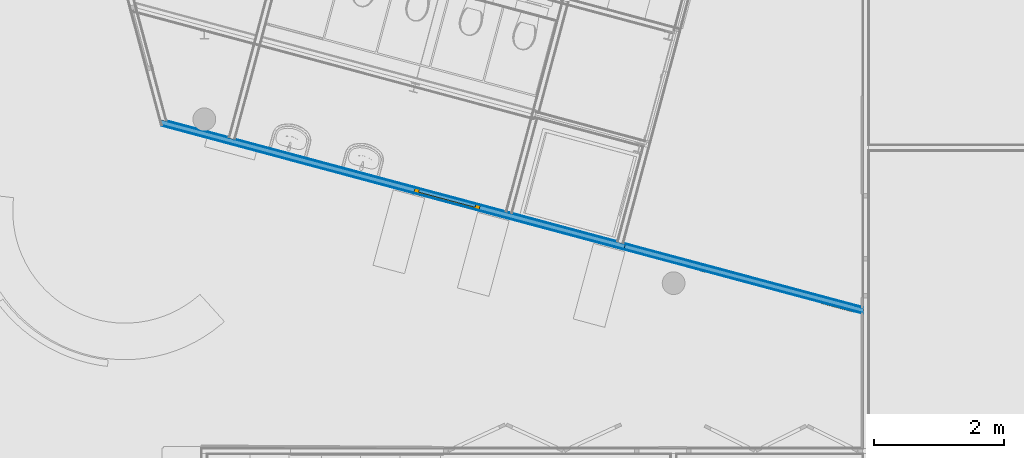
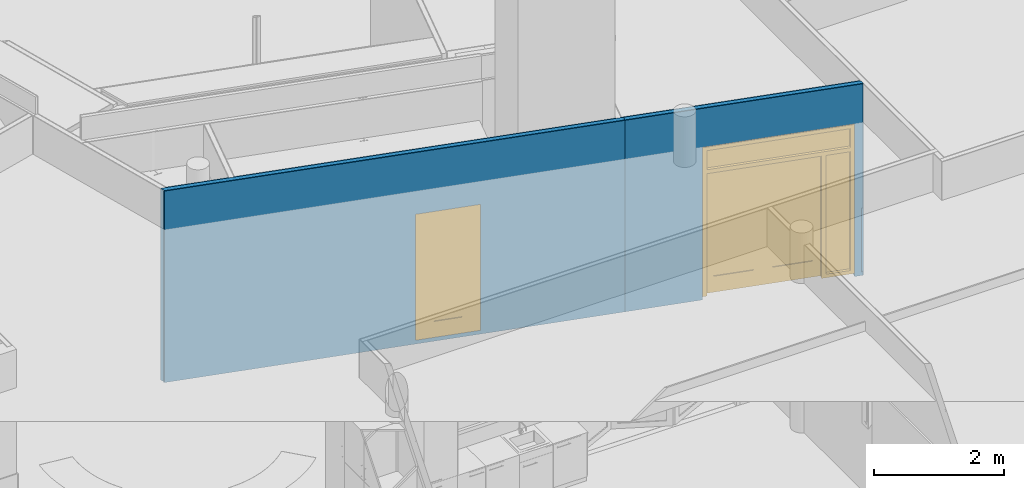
# One storey, part 54 of 167: 6 building element parts, 2 doors, 2 openings, 2 elements without a shape of their own.
"""IFC2X3 building model written with IfcOpenShell, lengths in millimetres."""

from ifc_helpers import new_model, entity, si_unit, converted_unit, derived_unit, money_unit, direction, frame, origin_with_axes, place, context, subcontext, project, spatial, open_shell, faceted_brep, surface_model, material, type_object, element, fill, aggregate, save


model = new_model("IFC2X3")

# Units and contexts
model_context = context("Model", 3, precision=0.01, world=origin_with_axes(), true_north=direction((0.0, 1.0)))
plan_context = context("Plan", 3, precision=0.01, world=origin_with_axes(), true_north=direction((0.0, 1.0)))
body_context = subcontext(model_context, "Body", "Model", "MODEL_VIEW")
ifc_project = project(units=[si_unit("LENGTHUNIT", "METRE", prefix="MILLI"), si_unit("AREAUNIT", "SQUARE_METRE"), si_unit("VOLUMEUNIT", "CUBIC_METRE"), converted_unit("PLANEANGLEUNIT", "DEGREE", entity("IfcPlaneAngleMeasure", 0.0174532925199), si_unit("PLANEANGLEUNIT", "RADIAN"), dimensions=[0, 0, 0, 0, 0, 0, 0]), si_unit("SOLIDANGLEUNIT", "STERADIAN"), money_unit("EUR"), converted_unit("TIMEUNIT", "Year", entity("IfcTimeMeasure", 31556926.0), si_unit("TIMEUNIT", "SECOND"), dimensions=[0, 0, 1, 0, 0, 0, 0]), si_unit("MASSUNIT", "GRAM", prefix="KILO"), si_unit("THERMODYNAMICTEMPERATUREUNIT", "DEGREE_CELSIUS"), si_unit("LUMINOUSINTENSITYUNIT", "LUMEN"), si_unit("ENERGYUNIT", "JOULE", prefix="MEGA"), derived_unit("THERMALCONDUCTANCEUNIT", [(si_unit("POWERUNIT", "WATT"), 1), (si_unit("LENGTHUNIT", "METRE"), -1), (si_unit("THERMODYNAMICTEMPERATUREUNIT", "KELVIN"), -1)]), derived_unit("SPECIFICHEATCAPACITYUNIT", [(si_unit("ENERGYUNIT", "JOULE"), 1), (si_unit("MASSUNIT", "GRAM", prefix="KILO"), -1), (si_unit("THERMODYNAMICTEMPERATUREUNIT", "KELVIN"), -1)]), derived_unit("MASSDENSITYUNIT", [(si_unit("MASSUNIT", "GRAM", prefix="KILO"), 1), (si_unit("VOLUMEUNIT", "CUBIC_METRE"), -1)])], contexts=[model_context, plan_context])

# Site, building, storey
site_placement = place(None, origin_with_axes())
site = spatial("IfcSite", under=ifc_project, at=site_placement, Name="Site", CompositionType="ELEMENT")
building_placement = place(site_placement, origin_with_axes())
building = spatial("IfcBuilding", under=site, at=building_placement, Name="Naam gebouw", CompositionType="ELEMENT")
storey_placement = place(building_placement, origin_with_axes())
storey = spatial("IfcBuildingStorey", under=building, at=storey_placement, Name="Begane grond", CompositionType="ELEMENT", Elevation=0.0)

# Door
door_style_1 = type_object("IfcDoorStyle", Name="D1 24", ConstructionType="NOTDEFINED", OperationType="SINGLE_SWING_RIGHT", ParameterTakesPrecedence=False, Sizeable=False)
wall_1_placement = place(storey_placement, frame((13781.7619756, 13253.6096695, -100.0), z_axis=(0.0, 0.0, 1.0), x_axis=(0.965925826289, -0.258819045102, 0.0)))
opening_1_placement = place(wall_1_placement, frame((4495.07008682, 0.0, 102.0), z_axis=(0.0, 0.0, 1.0), x_axis=(1.0, 0.0, 0.0)))
door_1_placement = place(opening_1_placement, frame((517.0, 0.0, 0.0), z_axis=(0.0, 0.0, 1.0), x_axis=(-1.0, 0.0, 0.0)))
door_1 = element("IfcDoor", 1, at=door_1_placement, inside=storey, type_object=door_style_1, Name="32_Deur_Hi-01as", ObjectType="DOOR", OverallHeight=2367.0, OverallWidth=1034.0, context=body_context, shape_type="SurfaceModel", body=[
    faceted_brep([(67.0, 10.0, 0.0), (67.0, 10.0, 2300.0), (67.0, -64.0, 2300.0), (67.0, -64.0, 0.0), (42.0, 10.0, 2300.0), (42.0, 10.0, 0.0), (42.0, 50.0, 2300.0), (0.0, 50.0, 2300.0), (0.0, -64.0, 2300.0), (0.0, -64.0, 0.0), (0.0, 50.0, 0.0), (42.0, 50.0, 0.0)], [[[0, 1, 2, 3]], [[4, 1, 0, 5]], [[4, 6, 7, 8, 2, 1]], [[3, 2, 8, 9]], [[5, 0, 3, 9, 10, 11]], [[6, 4, 5, 11]], [[6, 11, 10, 7]], [[10, 9, 8, 7]]]),
    faceted_brep([(992.0, 10.0, 2300.0), (967.0, 10.0, 2300.0), (967.0, -64.0, 2300.0), (1034.0, -64.0, 2300.0), (1034.0, 50.0, 2300.0), (992.0, 50.0, 2300.0), (992.0, 10.0, 0.0), (967.0, 10.0, 0.0), (967.0, -64.0, 0.0), (1034.0, -64.0, 0.0), (1034.0, 50.0, 0.0), (992.0, 50.0, 0.0)], [[[0, 1, 2, 3, 4, 5]], [[1, 0, 6, 7]], [[1, 7, 8, 2]], [[3, 2, 8, 9]], [[4, 3, 9, 10]], [[11, 5, 4, 10]], [[0, 5, 11, 6]], [[6, 11, 10, 9, 8, 7]]]),
    faceted_brep([(42.0, 50.0, 2325.0), (42.0, 50.0, 2300.0), (0.0, 50.0, 2300.0), (0.0, 50.0, 2367.0), (1034.0, 50.0, 2367.0), (1034.0, 50.0, 2300.0), (992.0, 50.0, 2300.0), (992.0, 50.0, 2325.0), (42.0, 10.0, 2325.0), (42.0, 10.0, 2300.0), (67.0, 10.0, 2300.0), (67.0, -64.0, 2300.0), (0.0, -64.0, 2300.0), (0.0, -64.0, 2367.0), (1034.0, -64.0, 2367.0), (1034.0, -64.0, 2300.0), (992.0, 10.0, 2300.0), (967.0, -64.0, 2300.0), (967.0, 10.0, 2300.0), (992.0, 10.0, 2325.0)], [[[0, 1, 2, 3, 4, 5, 6, 7]], [[1, 0, 8, 9]], [[9, 10, 11, 12, 2, 1]], [[2, 12, 13, 3]], [[3, 13, 14, 4]], [[4, 14, 15, 5]], [[16, 6, 5, 15, 17, 18]], [[7, 6, 16, 19]], [[0, 7, 19, 8]], [[16, 18, 10, 9, 8, 19]], [[10, 18, 17, 11]], [[17, 15, 14, 13, 12, 11]]]),
    faceted_brep([(992.0, 50.0, 300.0), (992.0, 10.0, 300.0), (742.0, 10.0, 300.0), (742.0, 50.0, 300.0), (992.0, 50.0, 2075.0), (992.0, 10.0, 2075.0), (742.0, 10.0, 2075.0), (742.0, 50.0, 2075.0)], [[[0, 1, 2, 3]], [[4, 5, 1, 0]], [[1, 5, 6, 2]], [[3, 2, 6, 7]], [[0, 3, 7, 4]], [[7, 6, 5, 4]]]),
    faceted_brep([(42.0, 50.0, 300.0), (42.0, 10.0, 300.0), (42.0, 10.0, 2075.0), (42.0, 50.0, 2075.0), (292.0, 50.0, 300.0), (292.0, 10.0, 300.0), (292.0, 10.0, 2075.0), (292.0, 50.0, 2075.0)], [[[0, 1, 2, 3]], [[4, 5, 1, 0]], [[1, 5, 6, 2]], [[3, 2, 6, 7]], [[0, 3, 7, 4]], [[7, 6, 5, 4]]]),
    faceted_brep([(992.0, 50.0, 0.0), (992.0, 10.0, 0.0), (42.0, 10.0, 0.0), (42.0, 50.0, 0.0), (992.0, 50.0, 300.0), (992.0, 10.0, 300.0), (742.0, 10.0, 300.0), (292.0, 10.0, 300.0), (42.0, 10.0, 300.0), (42.0, 50.0, 300.0), (292.0, 50.0, 300.0), (742.0, 50.0, 300.0)], [[[0, 1, 2, 3]], [[4, 5, 1, 0]], [[1, 5, 6, 7, 8, 2]], [[3, 2, 8, 9]], [[0, 3, 9, 10, 11, 4]], [[11, 6, 5, 4]], [[10, 7, 6, 11]], [[9, 8, 7, 10]]]),
    faceted_brep([(992.0, 50.0, 2325.0), (992.0, 10.0, 2325.0), (992.0, 10.0, 2075.0), (992.0, 50.0, 2075.0), (42.0, 50.0, 2325.0), (42.0, 10.0, 2325.0), (42.0, 10.0, 2075.0), (292.0, 10.0, 2075.0), (742.0, 10.0, 2075.0), (742.0, 50.0, 2075.0), (292.0, 50.0, 2075.0), (42.0, 50.0, 2075.0)], [[[0, 1, 2, 3]], [[4, 5, 1, 0]], [[1, 5, 6, 7, 8, 2]], [[3, 2, 8, 9]], [[0, 3, 9, 10, 11, 4]], [[11, 6, 5, 4]], [[10, 7, 6, 11]], [[9, 8, 7, 10]]]),
    surface_model("IfcShellBasedSurfaceModel", [(742.0, 36.0, 300.0), (292.0, 36.0, 300.0), (292.0, 36.0, 2075.0), (742.0, 36.0, 2075.0)], [open_shell([[[0, 1, 2, 3]]])]),
    surface_model("IfcShellBasedSurfaceModel", [(742.0, 24.0, 300.0), (742.0, 24.0, 2075.0), (292.0, 24.0, 2075.0), (292.0, 24.0, 300.0)], [open_shell([[[0, 1, 2, 3]]])]),
])

door_style_2 = type_object("IfcDoorStyle", Name="D2 bl zl1 24", ConstructionType="NOTDEFINED", OperationType="USERDEFINED", ParameterTakesPrecedence=False, Sizeable=False)
wall_2_placement = place(storey_placement, frame((20849.2505835, 11359.8818045, -100.0), z_axis=(0.0, 0.0, 1.0), x_axis=(0.965925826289, -0.258819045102, 0.0)))
opening_2_placement = place(wall_2_placement, frame((2444.79876736, 0.0, 100.0), z_axis=(0.0, 0.0, 1.0), x_axis=(1.0, 0.0, 0.0)))
door_2_placement = place(opening_2_placement, frame((-1212.13574196, 0.0, 0.0), z_axis=(0.0, 0.0, 1.0), x_axis=(1.0, 0.0, 0.0)))
door_2 = element("IfcDoor", 2, at=door_2_placement, inside=storey, type_object=door_style_2, Name="32_Deur_Hi-18", ObjectType="DOOR", OverallHeight=2800.0, OverallWidth=2424.27, context=body_context, shape_type="SurfaceModel", body=[
    faceted_brep([(2424.27148392, 50.0, 0.0), (2424.27148392, -64.0, 0.0), (2357.27148392, -64.0, 0.0), (2357.27148392, 50.0, 0.0), (2424.27148392, 50.0, 2733.0), (2424.27148392, -64.0, 2733.0), (2357.27148392, -64.0, 2733.0), (2357.27148392, -64.0, 2375.0), (2357.27148392, -64.0, 2300.0), (2357.27148392, -64.0, 67.0), (2357.27148392, 50.0, 67.0), (2357.27148392, 50.0, 2300.0), (2357.27148392, 50.0, 2375.0), (2357.27148392, 50.0, 2733.0)], [[[0, 1, 2, 3]], [[4, 5, 1, 0]], [[1, 5, 6, 7, 8, 9, 2]], [[3, 2, 9, 10]], [[0, 3, 10, 11, 12, 13, 4]], [[13, 6, 5, 4]], [[12, 7, 6, 13]], [[11, 8, 7, 12]], [[10, 9, 8, 11]]]),
    faceted_brep([(1898.0, 10.0, 0.0), (1898.0, -64.0, 0.0), (1898.0, -64.0, 2300.0), (1898.0, 10.0, 2300.0), (1923.0, 10.0, 0.0), (1923.0, 50.0, 0.0), (1965.0, 50.0, 0.0), (1965.0, -64.0, 0.0), (1965.0, -64.0, 67.0), (1965.0, -64.0, 2300.0), (1923.0, 10.0, 2300.0), (1965.0, 50.0, 2300.0), (1923.0, 50.0, 2300.0), (1965.0, 50.0, 67.0)], [[[0, 1, 2, 3]], [[4, 5, 6, 7, 1, 0]], [[7, 8, 9, 2, 1]], [[10, 3, 2, 9, 11, 12]], [[10, 4, 0, 3]], [[12, 5, 4, 10]], [[12, 11, 13, 6, 5]], [[6, 13, 8, 7]], [[13, 11, 9, 8]]]),
    faceted_brep([(2357.27148392, 50.0, 67.0), (2357.27148392, -64.0, 67.0), (2357.27148392, -64.0, 0.0), (2357.27148392, 50.0, 0.0), (1965.0, 50.0, 67.0), (1965.0, -64.0, 67.0), (1965.0, -64.0, 0.0), (1965.0, 50.0, 0.0)], [[[0, 1, 2, 3]], [[4, 5, 1, 0]], [[1, 5, 6, 2]], [[3, 2, 6, 7]], [[0, 3, 7, 4]], [[7, 6, 5, 4]]]),
    faceted_brep([(42.0, 50.0, 2325.0), (42.0, 50.0, 0.0), (0.0, 50.0, 0.0), (0.0, 50.0, 2733.0), (67.0, 50.0, 2733.0), (67.0, 50.0, 2375.0), (67.0, 50.0, 2325.0), (42.0, 10.0, 2325.0), (42.0, 10.0, 0.0), (67.0, 10.0, 0.0), (67.0, -64.0, 0.0), (0.0, -64.0, 0.0), (0.0, -64.0, 2733.0), (67.0, -64.0, 2733.0), (67.0, -64.0, 2375.0), (67.0, 10.0, 2325.0), (67.0, -64.0, 2300.0)], [[[0, 1, 2, 3, 4, 5, 6]], [[0, 7, 8, 1]], [[8, 9, 10, 11, 2, 1]], [[3, 2, 11, 12]], [[4, 3, 12, 13]], [[5, 4, 13, 14]], [[15, 6, 5, 14, 16, 10, 9]], [[6, 15, 7, 0]], [[8, 7, 15, 9]], [[14, 13, 12, 11, 10, 16]]]),
    faceted_brep([(2424.27148392, 50.0, 2800.0), (2424.27148392, -64.0, 2800.0), (2424.27148392, -64.0, 2733.0), (2424.27148392, 50.0, 2733.0), (0.0, 50.0, 2800.0), (0.0, -64.0, 2800.0), (0.0, -64.0, 2733.0), (67.0, -64.0, 2733.0), (2357.27148392, -64.0, 2733.0), (2357.27148392, 50.0, 2733.0), (67.0, 50.0, 2733.0), (0.0, 50.0, 2733.0)], [[[0, 1, 2, 3]], [[4, 5, 1, 0]], [[1, 5, 6, 7, 8, 2]], [[3, 2, 8, 9]], [[0, 3, 9, 10, 11, 4]], [[11, 6, 5, 4]], [[10, 7, 6, 11]], [[9, 8, 7, 10]]]),
    faceted_brep([(67.0, 10.0, 2325.0), (67.0, 10.0, 2300.0), (67.0, -64.0, 2300.0), (67.0, -64.0, 2375.0), (67.0, 50.0, 2375.0), (67.0, 50.0, 2325.0), (1923.0, 10.0, 2325.0), (1923.0, 10.0, 2300.0), (1898.0, 10.0, 2300.0), (1898.0, -64.0, 2300.0), (1965.0, -64.0, 2300.0), (2357.27148392, -64.0, 2300.0), (2357.27148392, -64.0, 2375.0), (2357.27148392, 50.0, 2375.0), (1923.0, 50.0, 2325.0), (2357.27148392, 50.0, 2300.0), (1965.0, 50.0, 2300.0), (1923.0, 50.0, 2300.0)], [[[0, 1, 2, 3, 4, 5]], [[0, 6, 7, 8, 1]], [[8, 9, 2, 1]], [[9, 10, 11, 12, 3, 2]], [[13, 4, 3, 12]], [[14, 5, 4, 13, 15, 16, 17]], [[5, 14, 6, 0]], [[17, 7, 6, 14]], [[7, 17, 16, 10, 9, 8]], [[16, 15, 11, 10]], [[15, 13, 12, 11]]]),
    faceted_brep([(42.0, 50.0, 300.0), (192.0, 50.0, 300.0), (192.0, 10.0, 300.0), (42.0, 10.0, 300.0), (42.0, 50.0, 2175.0), (192.0, 50.0, 2175.0), (192.0, 10.0, 2175.0), (42.0, 10.0, 2175.0)], [[[0, 1, 2, 3]], [[0, 4, 5, 1]], [[1, 5, 6, 2]], [[3, 2, 6, 7]], [[4, 0, 3, 7]], [[5, 4, 7, 6]]]),
    faceted_brep([(982.5, 50.0, 300.0), (982.5, 50.0, 2175.0), (982.5, 10.0, 2175.0), (982.5, 10.0, 300.0), (832.5, 50.0, 300.0), (832.5, 50.0, 2175.0), (832.5, 10.0, 2175.0), (832.5, 10.0, 300.0)], [[[0, 1, 2, 3]], [[0, 4, 5, 1]], [[1, 5, 6, 2]], [[3, 2, 6, 7]], [[4, 0, 3, 7]], [[5, 4, 7, 6]]]),
    faceted_brep([(42.0, 50.0, 0.0), (982.5, 50.0, 0.0), (982.5, 10.0, 0.0), (42.0, 10.0, 0.0), (42.0, 50.0, 300.0), (192.0, 50.0, 300.0), (832.5, 50.0, 300.0), (982.5, 50.0, 300.0), (982.5, 10.0, 300.0), (832.5, 10.0, 300.0), (192.0, 10.0, 300.0), (42.0, 10.0, 300.0)], [[[0, 1, 2, 3]], [[0, 4, 5, 6, 7, 1]], [[1, 7, 8, 2]], [[3, 2, 8, 9, 10, 11]], [[4, 0, 3, 11]], [[5, 4, 11, 10]], [[6, 5, 10, 9]], [[7, 6, 9, 8]]]),
    faceted_brep([(42.0, 50.0, 2325.0), (42.0, 50.0, 2175.0), (42.0, 10.0, 2175.0), (42.0, 10.0, 2325.0), (982.5, 50.0, 2325.0), (982.5, 50.0, 2175.0), (832.5, 50.0, 2175.0), (192.0, 50.0, 2175.0), (192.0, 10.0, 2175.0), (832.5, 10.0, 2175.0), (982.5, 10.0, 2175.0), (982.5, 10.0, 2325.0)], [[[0, 1, 2, 3]], [[0, 4, 5, 6, 7, 1]], [[1, 7, 8, 2]], [[3, 2, 8, 9, 10, 11]], [[4, 0, 3, 11]], [[5, 4, 11, 10]], [[6, 5, 10, 9]], [[7, 6, 9, 8]]]),
    surface_model("IfcShellBasedSurfaceModel", [(192.0, 36.0, 300.0), (192.0, 36.0, 2175.0), (832.5, 36.0, 2175.0), (832.5, 36.0, 300.0)], [open_shell([[[0, 1, 2, 3]]])]),
    surface_model("IfcShellBasedSurfaceModel", [(192.0, 24.0, 300.0), (832.5, 24.0, 300.0), (832.5, 24.0, 2175.0), (192.0, 24.0, 2175.0)], [open_shell([[[0, 1, 2, 3]]])]),
    faceted_brep([(1923.0, 50.0, 300.0), (1923.0, 10.0, 300.0), (1773.0, 10.0, 300.0), (1773.0, 50.0, 300.0), (1923.0, 50.0, 2175.0), (1923.0, 10.0, 2175.0), (1773.0, 10.0, 2175.0), (1773.0, 50.0, 2175.0)], [[[0, 1, 2, 3]], [[4, 5, 1, 0]], [[1, 5, 6, 2]], [[3, 2, 6, 7]], [[0, 3, 7, 4]], [[7, 6, 5, 4]]]),
    faceted_brep([(982.5, 50.0, 300.0), (982.5, 10.0, 300.0), (982.5, 10.0, 2175.0), (982.5, 50.0, 2175.0), (1132.5, 50.0, 300.0), (1132.5, 10.0, 300.0), (1132.5, 10.0, 2175.0), (1132.5, 50.0, 2175.0)], [[[0, 1, 2, 3]], [[4, 5, 1, 0]], [[1, 5, 6, 2]], [[3, 2, 6, 7]], [[0, 3, 7, 4]], [[7, 6, 5, 4]]]),
    faceted_brep([(1923.0, 50.0, 0.0), (1923.0, 10.0, 0.0), (982.5, 10.0, 0.0), (982.5, 50.0, 0.0), (1923.0, 50.0, 300.0), (1923.0, 10.0, 300.0), (1773.0, 10.0, 300.0), (1132.5, 10.0, 300.0), (982.5, 10.0, 300.0), (982.5, 50.0, 300.0), (1132.5, 50.0, 300.0), (1773.0, 50.0, 300.0)], [[[0, 1, 2, 3]], [[4, 5, 1, 0]], [[1, 5, 6, 7, 8, 2]], [[3, 2, 8, 9]], [[0, 3, 9, 10, 11, 4]], [[11, 6, 5, 4]], [[10, 7, 6, 11]], [[9, 8, 7, 10]]]),
    faceted_brep([(1923.0, 50.0, 2325.0), (1923.0, 10.0, 2325.0), (1923.0, 10.0, 2175.0), (1923.0, 50.0, 2175.0), (982.5, 50.0, 2325.0), (982.5, 10.0, 2325.0), (982.5, 10.0, 2175.0), (1132.5, 10.0, 2175.0), (1773.0, 10.0, 2175.0), (1773.0, 50.0, 2175.0), (1132.5, 50.0, 2175.0), (982.5, 50.0, 2175.0)], [[[0, 1, 2, 3]], [[4, 5, 1, 0]], [[1, 5, 6, 7, 8, 2]], [[3, 2, 8, 9]], [[0, 3, 9, 10, 11, 4]], [[11, 6, 5, 4]], [[10, 7, 6, 11]], [[9, 8, 7, 10]]]),
    surface_model("IfcShellBasedSurfaceModel", [(1773.0, 36.0, 300.0), (1132.5, 36.0, 300.0), (1132.5, 36.0, 2175.0), (1773.0, 36.0, 2175.0)], [open_shell([[[0, 1, 2, 3]]])]),
    surface_model("IfcShellBasedSurfaceModel", [(1773.0, 24.0, 300.0), (1773.0, 24.0, 2175.0), (1132.5, 24.0, 2175.0), (1132.5, 24.0, 300.0)], [open_shell([[[0, 1, 2, 3]]])]),
    surface_model("IfcShellBasedSurfaceModel", [(2357.27148392, -4.0, 2375.0), (67.0, -4.0, 2375.0), (67.0, -4.0, 2733.0), (2357.27148392, -4.0, 2733.0)], [open_shell([[[0, 1, 2, 3]]])]),
    surface_model("IfcShellBasedSurfaceModel", [(2357.27148392, -16.0, 2375.0), (2357.27148392, -16.0, 2733.0), (67.0, -16.0, 2733.0), (67.0, -16.0, 2375.0)], [open_shell([[[0, 1, 2, 3]]])]),
    surface_model("IfcShellBasedSurfaceModel", [(2357.27148392, -4.0, 67.0), (1965.0, -4.0, 67.0), (1965.0, -4.0, 2300.0), (2357.27148392, -4.0, 2300.0)], [open_shell([[[0, 1, 2, 3]]])]),
    surface_model("IfcShellBasedSurfaceModel", [(2357.27148392, -16.0, 67.0), (2357.27148392, -16.0, 2300.0), (1965.0, -16.0, 2300.0), (1965.0, -16.0, 67.0)], [open_shell([[[0, 1, 2, 3]]])]),
])

# Wall, opening
wall_type = type_object("IfcWallType", Name="_TenW_22_Metalstud 100 enkel gipsvezelplaat 100", PredefinedType="NOTDEFINED")
wall_1 = element("IfcWall", 3, at=wall_1_placement, inside=storey, type_object=wall_type, Name="22_Wand_Wand-x")
opening_1 = element("IfcOpeningElement", 4, at=opening_1_placement, cuts=wall_1, Name="32_Deur_Hi-01as", context=body_context, shape_type="Brep", body=[
    faceted_brep([(-517.0, 100.0, 2367.0), (-517.0, 100.0, 0.0), (-517.0, -200.0, 0.0), (-517.0, -200.0, 2367.0), (517.0, 100.0, 2367.0), (517.0, 100.0, 0.0), (517.0, -200.0, 0.0), (517.0, -200.0, 2367.0)], [[[0, 1, 2, 3]], [[0, 4, 5, 1]], [[1, 5, 6, 2]], [[3, 2, 6, 7]], [[4, 0, 3, 7]], [[5, 4, 7, 6]]]),
])

fill(opening_1, door_1)

# Building element part
ifc_material_1 = material(Name="Gipsplaat watervast")
building_element_part_1_placement = place(wall_1_placement, origin_with_axes())
building_element_part_1 = element("IfcBuildingElementPart", 5, at=building_element_part_1_placement, material=ifc_material_1, Name="Gipsplaat watervast", context=body_context, shape_type="Brep", body=[
    faceted_brep([(14.4337567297, 50.0, 3630.0), (1029.30261107, 50.0, 3630.0), (1029.30261107, 50.0, 30.0), (14.4337567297, 50.0, 30.0), (1029.30261107, 37.5, 3630.0), (21.6506350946, 37.5, 3630.0), (1029.30261107, 37.5, 30.0), (21.6506350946, 37.5, 30.0)], [[[0, 1, 2, 3]], [[4, 1, 0, 5]], [[1, 4, 6, 2]], [[3, 2, 6, 7]], [[5, 0, 3, 7]], [[4, 5, 7, 6]]]),
    faceted_brep([(7273.62068274, 50.0, 3630.0), (7316.80261107, 50.0, 3630.0), (7316.80261107, 50.0, 30.0), (7273.62068274, 50.0, 30.0), (7316.80261107, 37.5, 3630.0), (7273.62068274, 37.5, 3630.0), (7316.80261107, 37.5, 30.0), (7273.62068274, 37.5, 30.0)], [[[0, 1, 2, 3]], [[4, 1, 0, 5]], [[1, 4, 6, 2]], [[3, 2, 6, 7]], [[5, 0, 3, 7]], [[4, 5, 7, 6]]]),
    faceted_brep([(5504.30261107, 37.5, 2590.0), (5504.30261107, 37.5, 30.0), (7198.62068274, 37.5, 30.0), (7198.62068274, 37.5, 3630.0), (1104.30261107, 37.5, 3630.0), (1104.30261107, 37.5, 30.0), (5429.30261107, 37.5, 30.0), (5429.30261107, 37.5, 2590.0), (3978.07008682, 37.5, 102.0), (3978.07008682, 37.5, 2469.0), (5012.07008682, 37.5, 2469.0), (5012.07008682, 37.5, 102.0), (5504.30261107, 50.0, 2590.0), (5504.30261107, 50.0, 30.0), (7198.62068274, 50.0, 30.0), (7198.62068274, 50.0, 3630.0), (1104.30261107, 50.0, 3630.0), (1104.30261107, 50.0, 30.0), (5429.30261107, 50.0, 30.0), (5429.30261107, 50.0, 2590.0), (3978.07008682, 50.0, 102.0), (3978.07008682, 50.0, 2469.0), (5012.07008682, 50.0, 2469.0), (5012.07008682, 50.0, 102.0)], [[[0, 1, 2, 3, 4, 5, 6, 7], [8, 9, 10, 11]], [[1, 0, 12, 13]], [[14, 2, 1, 13]], [[3, 2, 14, 15]], [[15, 16, 4, 3]], [[16, 17, 5, 4]], [[18, 6, 5, 17]], [[18, 19, 7, 6]], [[19, 12, 0, 7]], [[20, 21, 9, 8]], [[21, 22, 10, 9]], [[22, 23, 11, 10]], [[23, 20, 8, 11]], [[19, 18, 17, 16, 15, 14, 13, 12], [20, 23, 22, 21]]]),
])

ifc_material_2 = material(Name="Isolatie - Steenwol zacht")
building_element_part_2_placement = place(wall_1_placement, origin_with_axes())
building_element_part_2 = element("IfcBuildingElementPart", 6, at=building_element_part_2_placement, material=ifc_material_2, Name="Isolatie - Steenwol zacht", context=body_context, shape_type="Brep", body=[
    faceted_brep([(-21.6506350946, -37.5, 30.0), (0.0, -37.5, 30.0), (7316.80261107, -37.5, 30.0), (7316.80261107, -37.5, 3630.0), (0.0, -37.5, 3630.0), (-21.6506350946, -37.5, 3630.0), (3978.07008682, -37.5, 102.0), (3978.07008682, -37.5, 2469.0), (5012.07008682, -37.5, 2469.0), (5012.07008682, -37.5, 102.0), (-64.9519052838, 37.5, 30.0), (0.0, 37.5, 30.0), (7316.80261107, 37.5, 30.0), (7316.80261107, 37.5, 3630.0), (-64.9519052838, 37.5, 3630.0), (0.0, 37.5, 3630.0), (3978.07008682, 37.5, 102.0), (3978.07008682, 37.5, 2469.0), (5012.07008682, 37.5, 2469.0), (5012.07008682, 37.5, 102.0)], [[[0, 1, 2, 3, 4, 5], [6, 7, 8, 9]], [[1, 0, 10, 11]], [[12, 2, 1, 11]], [[3, 2, 12, 13]], [[14, 5, 4, 3, 13, 15]], [[0, 5, 14, 10]], [[16, 17, 7, 6]], [[17, 18, 8, 7]], [[18, 19, 9, 8]], [[19, 16, 6, 9]], [[11, 10, 14, 15, 13, 12], [16, 19, 18, 17]]]),
])

building_element_part_3_placement = place(wall_1_placement, origin_with_axes())
building_element_part_3 = element("IfcBuildingElementPart", 7, at=building_element_part_3_placement, material=ifc_material_1, Name="Gipsplaat watervast", context=body_context, shape_type="Brep", body=[
    faceted_brep([(-28.8675134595, -50.0, 30.0), (0.0, -50.0, 30.0), (7316.80261107, -50.0, 30.0), (7316.80261107, -50.0, 3630.0), (0.0, -50.0, 3630.0), (-28.8675134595, -50.0, 3630.0), (3978.07008682, -50.0, 102.0), (3978.07008682, -50.0, 2469.0), (5012.07008682, -50.0, 2469.0), (5012.07008682, -50.0, 102.0), (-36.0843918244, -37.5, 30.0), (0.0, -37.5, 30.0), (7316.80261107, -37.5, 30.0), (7316.80261107, -37.5, 3630.0), (-36.0843918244, -37.5, 3630.0), (0.0, -37.5, 3630.0), (3978.07008682, -37.5, 102.0), (3978.07008682, -37.5, 2469.0), (5012.07008682, -37.5, 2469.0), (5012.07008682, -37.5, 102.0)], [[[0, 1, 2, 3, 4, 5], [6, 7, 8, 9]], [[1, 0, 10, 11]], [[12, 2, 1, 11]], [[3, 2, 12, 13]], [[14, 5, 4, 3, 13, 15]], [[5, 14, 10, 0]], [[16, 17, 7, 6]], [[17, 18, 8, 7]], [[18, 19, 9, 8]], [[19, 16, 6, 9]], [[11, 10, 14, 15, 13, 12], [16, 19, 18, 17]]]),
])

aggregate(wall_1, [building_element_part_1, building_element_part_2, building_element_part_3])

# Wall, opening
wall_2 = element("IfcWall", 8, at=wall_2_placement, inside=storey, type_object=wall_type, Name="22_Wand_Wand-x")
opening_2 = element("IfcOpeningElement", 9, at=opening_2_placement, cuts=wall_2, Name="32_Deur_Hi-18", context=body_context, shape_type="Brep", body=[
    faceted_brep([(-1212.13574196, 200.0, 2800.0), (-1212.13574196, 200.0, 0.0), (-1212.13574196, -100.0, 0.0), (-1212.13574196, -100.0, 2800.0), (1212.13574196, 200.0, 2800.0), (1212.13574196, 200.0, 0.0), (1212.13574196, -100.0, 0.0), (1212.13574196, -100.0, 2800.0)], [[[0, 1, 2, 3]], [[0, 4, 5, 1]], [[1, 5, 6, 2]], [[3, 2, 6, 7]], [[4, 0, 3, 7]], [[5, 4, 7, 6]]]),
])

fill(opening_2, door_2)

# Building element part
building_element_part_4_placement = place(wall_2_placement, origin_with_axes())
building_element_part_4 = element("IfcBuildingElementPart", 10, at=building_element_part_4_placement, material=ifc_material_1, Name="Gipsplaat watervast", context=body_context, shape_type="Brep", body=[
    faceted_brep([(1232.6630254, 50.0, 2900.0), (1232.6630254, 50.0000020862, 100.0), (1232.6630254, 50.0000000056, 30.0), (0.0, 50.0, 30.0), (0.0, 50.0, 3630.0), (3766.13645142, 50.0000020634, 3630.0), (3766.13645178, 50.000000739, 1300.0), (3745.43092781, 50.0000020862, 1300.0), (3745.43092781, 50.0000020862, 100.0), (3766.13645196, 50.0000000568, 100.0), (3766.13645197, 50.0000000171, 30.0), (3656.93450932, 50.0000000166, 30.0), (3656.93450932, 50.0000020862, 100.0), (3656.93450932, 50.0, 2900.0), (1232.6630254, 37.5000007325, 2900.0), (1232.6630254, 37.5, 100.0), (1232.6630254, 37.5, 30.0), (0.0, 37.5, 30.0), (0.0, 37.5, 3630.0), (3769.48581669, 37.5000007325, 3630.0), (3769.48581688, 37.5, 1300.0), (3748.78029328, 37.5, 1300.0), (3748.78029328, 37.5, 100.0), (3769.48581688, 37.5, 100.0), (3769.48581688, 37.5, 30.0), (3656.93450932, 37.5, 30.0), (3656.93450932, 37.5, 100.0), (3656.93450932, 37.5000007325, 2900.0)], [[[0, 1, 2, 3, 4, 5, 6, 7, 8, 9, 10, 11, 12, 13]], [[1, 0, 14, 15]], [[1, 15, 16, 2]], [[16, 17, 3, 2]], [[4, 3, 17, 18]], [[5, 4, 18, 19]], [[19, 20, 6, 5]], [[7, 6, 20, 21]], [[8, 7, 21, 22]], [[23, 9, 8, 22]], [[10, 9, 23, 24]], [[11, 10, 24, 25]], [[26, 12, 11, 25]], [[13, 12, 26, 27]], [[0, 13, 27, 14]], [[27, 26, 25, 24, 23, 22, 21, 20, 19, 18, 17, 16, 15, 14]]]),
])

building_element_part_5_placement = place(wall_2_placement, origin_with_axes())
building_element_part_5 = element("IfcBuildingElementPart", 11, at=building_element_part_5_placement, material=ifc_material_2, Name="Isolatie - Steenwol zacht", context=body_context, shape_type="Brep", body=[
    faceted_brep([(1232.6630254, 37.5, 2900.0), (1232.6630254, 37.5000007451, 100.0), (1232.6630254, 37.500000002, 30.0), (0.0, 37.5, 30.0), (0.0, 37.5, 3630.0), (3782.42676894, 37.5000007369, 3630.0), (3782.42676914, 37.5000000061, 30.0), (3656.93450932, 37.5000000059, 30.0), (3656.93450932, 37.5000007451, 100.0), (3656.93450932, 37.5, 2900.0), (1232.6630254, -37.4999986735, 2900.0), (1232.6630254, -37.4999986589, 100.0), (1232.6630254, -37.4999999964, 30.0), (0.0, -37.5, 30.0), (0.0, -37.5, 3630.0), (3802.52295822, -37.4999986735, 3630.0), (3802.52295857, -37.499999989, 30.0), (3656.93450932, -37.4999999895, 30.0), (3656.93450932, -37.4999986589, 100.0), (3656.93450932, -37.4999986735, 2900.0)], [[[0, 1, 2, 3, 4, 5, 6, 7, 8, 9]], [[1, 0, 10, 11]], [[1, 11, 12, 2]], [[12, 13, 3, 2]], [[4, 3, 13, 14]], [[5, 4, 14, 15]], [[15, 16, 6, 5]], [[7, 6, 16, 17]], [[18, 8, 7, 17]], [[9, 8, 18, 19]], [[0, 9, 19, 10]], [[19, 18, 17, 16, 15, 14, 13, 12, 11, 10]]]),
])

building_element_part_6_placement = place(wall_2_placement, origin_with_axes())
building_element_part_6 = element("IfcBuildingElementPart", 12, at=building_element_part_6_placement, material=ifc_material_1, Name="Gipsplaat watervast", context=body_context, shape_type="Brep", body=[
    faceted_brep([(1232.6630254, -37.5, 2900.0), (1232.6630254, -37.4999998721, 100.0), (1232.6630254, -37.4999999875, 30.0), (0.0, -37.5, 30.0), (0.0, -37.5, 3630.0), (3789.58200596, -37.4999986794, 3630.0), (3789.58200628, -37.4999998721, 1300.0), (3768.87648267, -37.4999998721, 1300.0), (3768.87648267, -37.4999998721, 100.0), (3789.58200628, -37.4999998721, 100.0), (3789.58200631, -37.4999999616, 30.0), (3656.93450932, -37.499999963, 30.0), (3656.93450932, -37.4999998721, 100.0), (3656.93450932, -37.5, 2900.0), (1232.6630254, -50.0, 2900.0), (1232.6630254, -50.0, 100.0), (1232.6630254, -50.0, 30.0), (0.0, -50.0, 30.0), (0.0, -50.0, 3630.0), (3792.93137122, -50.0, 3630.0), (3792.93137122, -50.0, 1300.0), (3772.22584761, -50.0, 1300.0), (3772.22584761, -50.0, 100.0), (3792.93137122, -50.0, 100.0), (3792.93137122, -50.0, 30.0), (3656.93450932, -50.0, 30.0), (3656.93450932, -50.0, 100.0), (3656.93450932, -50.0, 2900.0)], [[[0, 1, 2, 3, 4, 5, 6, 7, 8, 9, 10, 11, 12, 13]], [[1, 0, 14, 15]], [[1, 15, 16, 2]], [[16, 17, 3, 2]], [[4, 3, 17, 18]], [[5, 4, 18, 19]], [[19, 20, 6, 5]], [[7, 6, 20, 21]], [[8, 7, 21, 22]], [[23, 9, 8, 22]], [[10, 9, 23, 24]], [[11, 10, 24, 25]], [[26, 12, 11, 25]], [[13, 12, 26, 27]], [[0, 13, 27, 14]], [[27, 26, 25, 24, 23, 22, 21, 20, 19, 18, 17, 16, 15, 14]]]),
])

aggregate(wall_2, [building_element_part_4, building_element_part_5, building_element_part_6])

save(model, "model.ifc")
